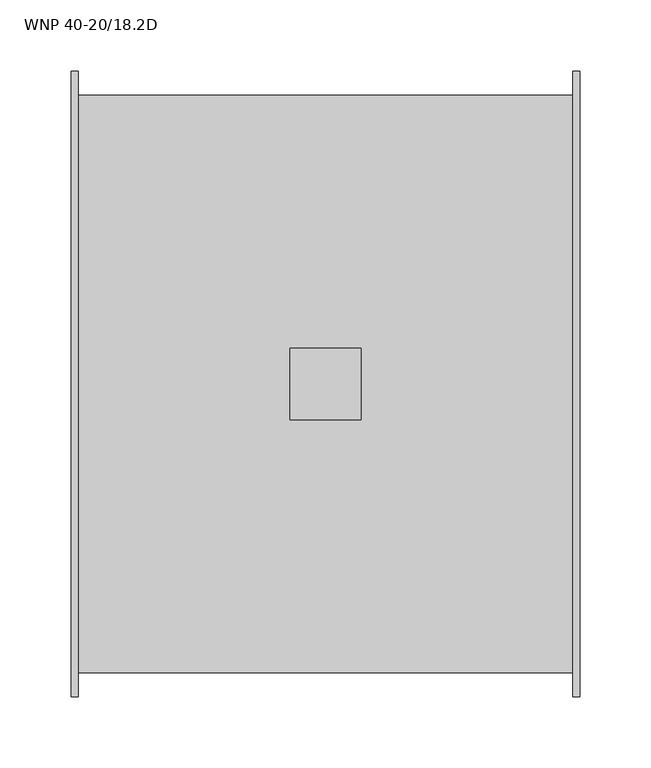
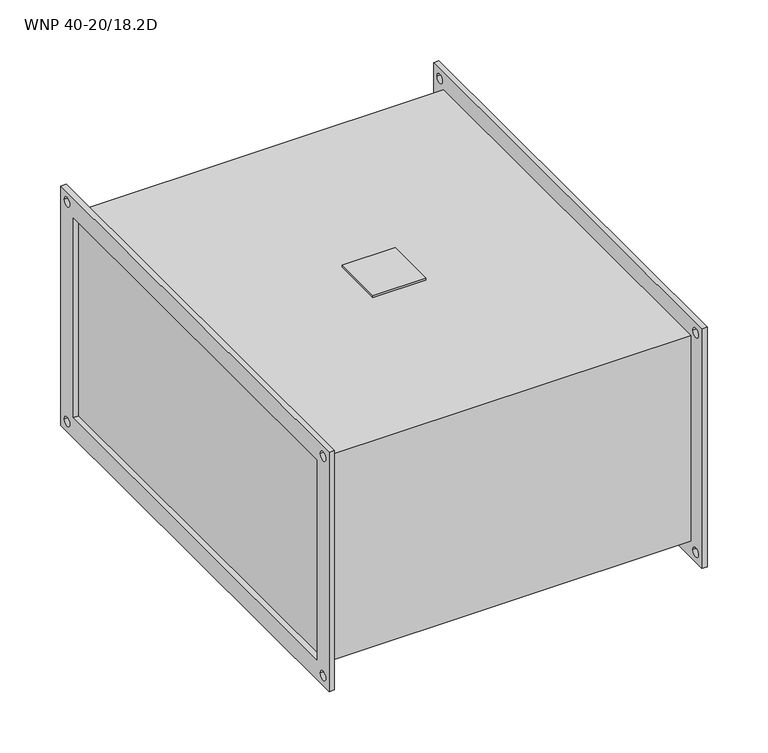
"""IFC4 building model written with IfcOpenShell, lengths in millimetres: proxy geometry, KORF_Вентилятор_WNP : WNP 40-20/18.2D."""

from ifc_helpers import new_model, si_unit, point, frame, frame_2d, origin, place, context, project, spatial, polyline, circle_curve, trimmed, segment, composite_curve, outline, extrude, source, transform, mapped, element, save


def wnp_40_20_18_2d_4dba3430(model_context):
    return source(origin(), model_context, "Body", "SweptSolid", [
        extrude(outline(polyline([(154.0, -25.0), (154.0, 25.0), (204.0, 25.0), (204.0, -25.0), (154.0, -25.0)])), frame((0.0, 0.0, 103.0), z_axis=(0.0, 0.0, 1.0), x_axis=(1.0, 0.0, 0.0)), (0.0, 0.0, 1.0), 2.0),
        extrude(outline(polyline([(-220.0, 120.0), (220.0, 120.0), (220.0, -120.0), (-220.0, -120.0), (-220.0, 120.0)]), holes=[polyline([(-200.0, 100.0), (-200.0, -100.0), (200.0, -100.0), (200.0, 100.0), (-200.0, 100.0)]), composite_curve([segment(trimmed(circle_curve(frame_2d((210.0, 110.0)), 4.5), [point((205.5, 110.0))], [point((214.5, 110.0))], True, "CARTESIAN"), True, "CONTINUOUS"), segment(trimmed(circle_curve(frame_2d((210.0, 110.0)), 4.5), [point((214.5, 110.0))], [point((205.5, 110.0))], True, "CARTESIAN"), True, "CONTINUOUS")], self_intersect=False), composite_curve([segment(trimmed(circle_curve(frame_2d((-210.0, 110.0)), 4.5), [point((-214.5, 110.0))], [point((-205.5, 110.0))], True, "CARTESIAN"), True, "CONTINUOUS"), segment(trimmed(circle_curve(frame_2d((-210.0, 110.0)), 4.5), [point((-205.5, 110.0))], [point((-214.5, 110.0))], True, "CARTESIAN"), True, "CONTINUOUS")], self_intersect=False), composite_curve([segment(trimmed(circle_curve(frame_2d((-210.0, -110.0)), 4.5), [point((-214.5, -110.0))], [point((-205.5, -110.0))], True, "CARTESIAN"), True, "CONTINUOUS"), segment(trimmed(circle_curve(frame_2d((-210.0, -110.0)), 4.5), [point((-205.5, -110.0))], [point((-214.5, -110.0))], True, "CARTESIAN"), True, "CONTINUOUS")], self_intersect=False), composite_curve([segment(trimmed(circle_curve(frame_2d((210.0, -110.0)), 4.5), [point((205.5, -110.0))], [point((214.5, -110.0))], True, "CARTESIAN"), True, "CONTINUOUS"), segment(trimmed(circle_curve(frame_2d((210.0, -110.0)), 4.5), [point((214.5, -110.0))], [point((205.5, -110.0))], True, "CARTESIAN"), True, "CONTINUOUS")], self_intersect=False)]), frame((353.0, 0.0, 0.0), z_axis=(1.0, 0.0, 0.0), x_axis=(0.0, 1.0, 0.0)), (0.0, 0.0, 1.0), 5.0),
        extrude(outline(polyline([(-220.0, 120.0), (220.0, 120.0), (220.0, -120.0), (-220.0, -120.0), (-220.0, 120.0)]), holes=[polyline([(-200.0, 100.0), (-200.0, -100.0), (200.0, -100.0), (200.0, 100.0), (-200.0, 100.0)]), composite_curve([segment(trimmed(circle_curve(frame_2d((210.0, 110.0)), 4.5), [point((205.5, 110.0))], [point((214.5, 110.0))], True, "CARTESIAN"), True, "CONTINUOUS"), segment(trimmed(circle_curve(frame_2d((210.0, 110.0)), 4.5), [point((214.5, 110.0))], [point((205.5, 110.0))], True, "CARTESIAN"), True, "CONTINUOUS")], self_intersect=False), composite_curve([segment(trimmed(circle_curve(frame_2d((-210.0, 110.0)), 4.5), [point((-214.5, 110.0))], [point((-205.5, 110.0))], True, "CARTESIAN"), True, "CONTINUOUS"), segment(trimmed(circle_curve(frame_2d((-210.0, 110.0)), 4.5), [point((-205.5, 110.0))], [point((-214.5, 110.0))], True, "CARTESIAN"), True, "CONTINUOUS")], self_intersect=False), composite_curve([segment(trimmed(circle_curve(frame_2d((-210.0, -110.0)), 4.5), [point((-214.5, -110.0))], [point((-205.5, -110.0))], True, "CARTESIAN"), True, "CONTINUOUS"), segment(trimmed(circle_curve(frame_2d((-210.0, -110.0)), 4.5), [point((-205.5, -110.0))], [point((-214.5, -110.0))], True, "CARTESIAN"), True, "CONTINUOUS")], self_intersect=False), composite_curve([segment(trimmed(circle_curve(frame_2d((210.0, -110.0)), 4.5), [point((205.5, -110.0))], [point((214.5, -110.0))], True, "CARTESIAN"), True, "CONTINUOUS"), segment(trimmed(circle_curve(frame_2d((210.0, -110.0)), 4.5), [point((214.5, -110.0))], [point((205.5, -110.0))], True, "CARTESIAN"), True, "CONTINUOUS")], self_intersect=False)]), frame((0.0, 0.0, 0.0), z_axis=(1.0, 0.0, 0.0), x_axis=(0.0, 1.0, 0.0)), (0.0, 0.0, 1.0), 5.0),
        extrude(outline(polyline([(353.0, 203.0), (353.0, -203.0), (5.0, -203.0), (5.0, 203.0), (353.0, 203.0)])), frame((0.0, 0.0, -103.0), z_axis=(0.0, 0.0, 1.0), x_axis=(1.0, 0.0, 0.0)), (0.0, 0.0, 1.0), 206.0),
    ])


if __name__ == "__main__":
    model = new_model("IFC4")
    model_context = context("Model", 3, world=origin())
    ifc_project = project(units=[si_unit("LENGTHUNIT", "METRE", prefix="MILLI")], contexts=[model_context])
    site = spatial("IfcSite", under=ifc_project)
    building = spatial("IfcBuilding", under=site)
    placement = place(None, origin())
    wnp_40_20_18_2d_shape = wnp_40_20_18_2d_4dba3430(model_context)
    element("IfcBuildingElementProxy", 1, Name="KORF_Вентилятор_WNP : WNP 40-20/18.2D", ObjectType="KORF_Вентилятор_WNP : WNP 40-20/18.2D", at=placement, inside=building, context=model_context, shape_type="MappedRepresentation", body=[
        mapped(wnp_40_20_18_2d_shape, transform((0.0, 0.0, 0.0), x_axis=(1.0, 0.0, 0.0), y_axis=(0.0, 1.0, 0.0), z_axis=(0.0, 0.0, 1.0))),
    ])
    save(model, "model.ifc")
